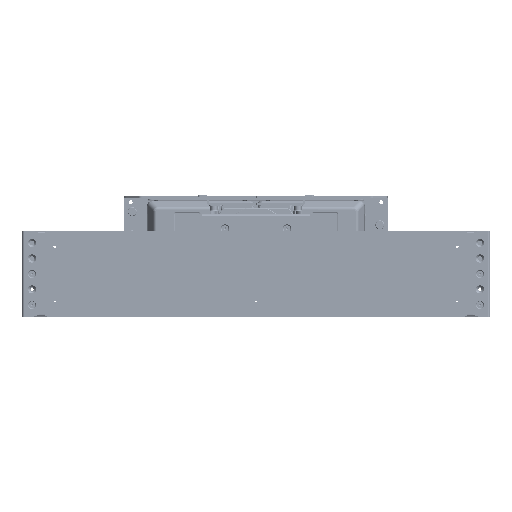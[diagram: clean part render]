
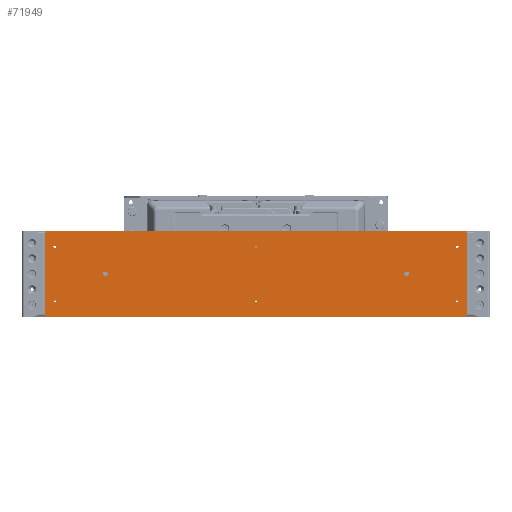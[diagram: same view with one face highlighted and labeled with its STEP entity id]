
A CAD part, top view. The second image highlights one B-rep face of the part: STEP entity #71949.
In plain terms, the highlighted planar face has unit normal (0, 0, 1) as drawn and (0, -1, 0) by its records, which use the part's own axes.
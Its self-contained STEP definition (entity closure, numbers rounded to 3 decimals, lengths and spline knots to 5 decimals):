
#6647=CIRCLE('',#81617,0.00225);
#6650=CIRCLE('',#81622,0.00225);
#6653=CIRCLE('',#81627,0.00225);
#6656=CIRCLE('',#81632,0.00225);
#6659=CIRCLE('',#81637,0.00225);
#6662=CIRCLE('',#81642,0.00225);
#6664=CIRCLE('',#81645,0.00396);
#6666=CIRCLE('',#81648,0.00396);
#6667=CIRCLE('',#81650,0.00318);
#6668=CIRCLE('',#81651,0.00318);
#6669=CIRCLE('',#81652,0.00318);
#6670=CIRCLE('',#81653,0.00318);
#22258=ORIENTED_EDGE('',*,*,#34941,.F.);
#22259=ORIENTED_EDGE('',*,*,#34942,.T.);
#22260=ORIENTED_EDGE('',*,*,#34943,.F.);
#22261=ORIENTED_EDGE('',*,*,#34944,.T.);
#22262=ORIENTED_EDGE('',*,*,#34945,.T.);
#22263=ORIENTED_EDGE('',*,*,#34946,.T.);
#22264=ORIENTED_EDGE('',*,*,#34947,.T.);
#22265=ORIENTED_EDGE('',*,*,#34948,.T.);
#22266=ORIENTED_EDGE('',*,*,#34940,.F.);
#22267=ORIENTED_EDGE('',*,*,#34938,.F.);
#22268=ORIENTED_EDGE('',*,*,#34936,.F.);
#22269=ORIENTED_EDGE('',*,*,#34933,.F.);
#22270=ORIENTED_EDGE('',*,*,#34930,.F.);
#22271=ORIENTED_EDGE('',*,*,#34927,.F.);
#22272=ORIENTED_EDGE('',*,*,#34924,.F.);
#22273=ORIENTED_EDGE('',*,*,#34921,.F.);
#34921=EDGE_CURVE('',#42435,#42435,#6647,.T.);
#34924=EDGE_CURVE('',#42438,#42438,#6650,.T.);
#34927=EDGE_CURVE('',#42441,#42441,#6653,.T.);
#34930=EDGE_CURVE('',#42444,#42444,#6656,.T.);
#34933=EDGE_CURVE('',#42447,#42447,#6659,.T.);
#34936=EDGE_CURVE('',#42450,#42450,#6662,.T.);
#34938=EDGE_CURVE('',#42452,#42452,#6664,.T.);
#34940=EDGE_CURVE('',#42454,#42454,#6666,.T.);
#34941=EDGE_CURVE('',#42455,#42456,#49044,.T.);
#34942=EDGE_CURVE('',#42455,#42457,#6667,.T.);
#34943=EDGE_CURVE('',#42458,#42457,#49045,.T.);
#34944=EDGE_CURVE('',#42458,#42459,#6668,.T.);
#34945=EDGE_CURVE('',#42459,#42460,#49046,.T.);
#34946=EDGE_CURVE('',#42460,#42461,#6669,.T.);
#34947=EDGE_CURVE('',#42461,#42462,#49047,.T.);
#34948=EDGE_CURVE('',#42462,#42456,#6670,.T.);
#42435=VERTEX_POINT('',#123101);
#42438=VERTEX_POINT('',#123109);
#42441=VERTEX_POINT('',#123117);
#42444=VERTEX_POINT('',#123125);
#42447=VERTEX_POINT('',#123133);
#42450=VERTEX_POINT('',#123141);
#42452=VERTEX_POINT('',#123146);
#42454=VERTEX_POINT('',#123151);
#42455=VERTEX_POINT('',#123154);
#42456=VERTEX_POINT('',#123155);
#42457=VERTEX_POINT('',#123157);
#42458=VERTEX_POINT('',#123159);
#42459=VERTEX_POINT('',#123161);
#42460=VERTEX_POINT('',#123163);
#42461=VERTEX_POINT('',#123165);
#42462=VERTEX_POINT('',#123167);
#49044=LINE('',#123153,#54762);
#49045=LINE('',#123158,#54763);
#49046=LINE('',#123162,#54764);
#49047=LINE('',#123166,#54765);
#54762=VECTOR('',#98839,1.);
#54763=VECTOR('',#98842,1.);
#54764=VECTOR('',#98845,1.);
#54765=VECTOR('',#98848,1.);
#59404=EDGE_LOOP('',(#22258,#22259,#22260,#22261,#22262,#22263,#22264,#22265));
#59405=EDGE_LOOP('',(#22266));
#59406=EDGE_LOOP('',(#22267));
#59407=EDGE_LOOP('',(#22268));
#59408=EDGE_LOOP('',(#22269));
#59409=EDGE_LOOP('',(#22270));
#59410=EDGE_LOOP('',(#22271));
#59411=EDGE_LOOP('',(#22272));
#59412=EDGE_LOOP('',(#22273));
#64992=FACE_BOUND('',#59404,.T.);
#64993=FACE_BOUND('',#59405,.T.);
#64994=FACE_BOUND('',#59406,.T.);
#64995=FACE_BOUND('',#59407,.T.);
#64996=FACE_BOUND('',#59408,.T.);
#64997=FACE_BOUND('',#59409,.T.);
#64998=FACE_BOUND('',#59410,.T.);
#64999=FACE_BOUND('',#59411,.T.);
#65000=FACE_BOUND('',#59412,.T.);
#68636=PLANE('',#81649);
#71949=ADVANCED_FACE('',(#64992,#64993,#64994,#64995,#64996,#64997,#64998,
#64999,#65000),#68636,.T.);
#81617=AXIS2_PLACEMENT_3D('',#123100,#98773,#98774);
#81622=AXIS2_PLACEMENT_3D('',#123108,#98783,#98784);
#81627=AXIS2_PLACEMENT_3D('',#123116,#98793,#98794);
#81632=AXIS2_PLACEMENT_3D('',#123124,#98803,#98804);
#81637=AXIS2_PLACEMENT_3D('',#123132,#98813,#98814);
#81642=AXIS2_PLACEMENT_3D('',#123140,#98823,#98824);
#81645=AXIS2_PLACEMENT_3D('',#123145,#98829,#98830);
#81648=AXIS2_PLACEMENT_3D('',#123150,#98835,#98836);
#81649=AXIS2_PLACEMENT_3D('',#123152,#98837,#98838);
#81650=AXIS2_PLACEMENT_3D('',#123156,#98840,#98841);
#81651=AXIS2_PLACEMENT_3D('',#123160,#98843,#98844);
#81652=AXIS2_PLACEMENT_3D('',#123164,#98846,#98847);
#81653=AXIS2_PLACEMENT_3D('',#123168,#98849,#98850);
#98773=DIRECTION('',(0.,-1.,0.));
#98774=DIRECTION('',(1.,0.,0.));
#98783=DIRECTION('',(0.,-1.,0.));
#98784=DIRECTION('',(1.,0.,0.));
#98793=DIRECTION('',(0.,-1.,0.));
#98794=DIRECTION('',(1.,0.,0.));
#98803=DIRECTION('',(0.,-1.,0.));
#98804=DIRECTION('',(1.,0.,0.));
#98813=DIRECTION('',(0.,-1.,0.));
#98814=DIRECTION('',(1.,0.,0.));
#98823=DIRECTION('',(0.,-1.,0.));
#98824=DIRECTION('',(1.,0.,0.));
#98829=DIRECTION('',(0.,-1.,0.));
#98830=DIRECTION('',(1.,0.,0.));
#98835=DIRECTION('',(0.,-1.,0.));
#98836=DIRECTION('',(1.,0.,0.));
#98837=DIRECTION('',(0.,-1.,0.));
#98838=DIRECTION('',(1.,0.,0.));
#98839=DIRECTION('',(0.,0.,1.));
#98840=DIRECTION('',(0.,-1.,0.));
#98841=DIRECTION('',(1.,0.,0.));
#98842=DIRECTION('',(-1.,0.,0.));
#98843=DIRECTION('',(0.,-1.,0.));
#98844=DIRECTION('',(1.,0.,0.));
#98845=DIRECTION('',(0.,0.,1.));
#98846=DIRECTION('',(0.,-1.,0.));
#98847=DIRECTION('',(1.,0.,0.));
#98848=DIRECTION('',(-1.,0.,0.));
#98849=DIRECTION('',(0.,-1.,0.));
#98850=DIRECTION('',(1.,0.,0.));
#123100=CARTESIAN_POINT('',(0.62548,-0.76109,-0.05766));
#123101=CARTESIAN_POINT('',(0.62772,-0.76109,-0.05766));
#123108=CARTESIAN_POINT('',(0.29528,-0.76109,-0.05766));
#123109=CARTESIAN_POINT('',(0.29752,-0.76109,-0.05766));
#123116=CARTESIAN_POINT('',(0.29528,-0.76109,-0.14656));
#123117=CARTESIAN_POINT('',(0.29752,-0.76109,-0.14656));
#123124=CARTESIAN_POINT('',(-0.03493,-0.76109,-0.05766));
#123125=CARTESIAN_POINT('',(-0.03268,-0.76109,-0.05766));
#123132=CARTESIAN_POINT('',(0.62548,-0.76109,-0.14656));
#123133=CARTESIAN_POINT('',(0.62772,-0.76109,-0.14656));
#123140=CARTESIAN_POINT('',(-0.03493,-0.76109,-0.14656));
#123141=CARTESIAN_POINT('',(-0.03268,-0.76109,-0.14656));
#123145=CARTESIAN_POINT('',(0.54242,-0.76109,-0.10211));
#123146=CARTESIAN_POINT('',(0.54638,-0.76109,-0.10211));
#123150=CARTESIAN_POINT('',(0.04813,-0.76109,-0.10211));
#123151=CARTESIAN_POINT('',(0.0521,-0.76109,-0.10211));
#123152=CARTESIAN_POINT('',(0.29528,-0.76109,-0.10211));
#123153=CARTESIAN_POINT('',(-0.0508,-0.76109,-0.10211));
#123154=CARTESIAN_POINT('',(-0.0508,-0.76109,-0.16878));
#123155=CARTESIAN_POINT('',(-0.0508,-0.76109,-0.03543));
#123156=CARTESIAN_POINT('',(-0.04763,-0.76109,-0.16878));
#123157=CARTESIAN_POINT('',(-0.04763,-0.76109,-0.17196));
#123158=CARTESIAN_POINT('',(0.29528,-0.76109,-0.17196));
#123159=CARTESIAN_POINT('',(0.63818,-0.76109,-0.17196));
#123160=CARTESIAN_POINT('',(0.63818,-0.76109,-0.16878));
#123161=CARTESIAN_POINT('',(0.64135,-0.76109,-0.16878));
#123162=CARTESIAN_POINT('',(0.64135,-0.76109,-0.10211));
#123163=CARTESIAN_POINT('',(0.64135,-0.76109,-0.03543));
#123164=CARTESIAN_POINT('',(0.63818,-0.76109,-0.03543));
#123165=CARTESIAN_POINT('',(0.63818,-0.76109,-0.03226));
#123166=CARTESIAN_POINT('',(0.29528,-0.76109,-0.03226));
#123167=CARTESIAN_POINT('',(-0.04763,-0.76109,-0.03226));
#123168=CARTESIAN_POINT('',(-0.04763,-0.76109,-0.03543));
